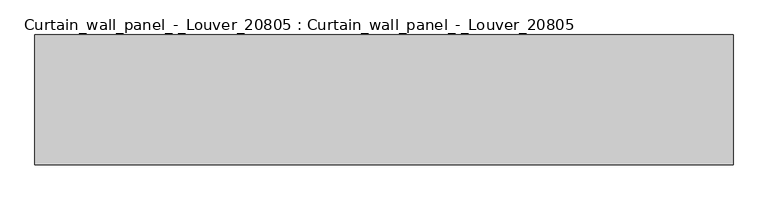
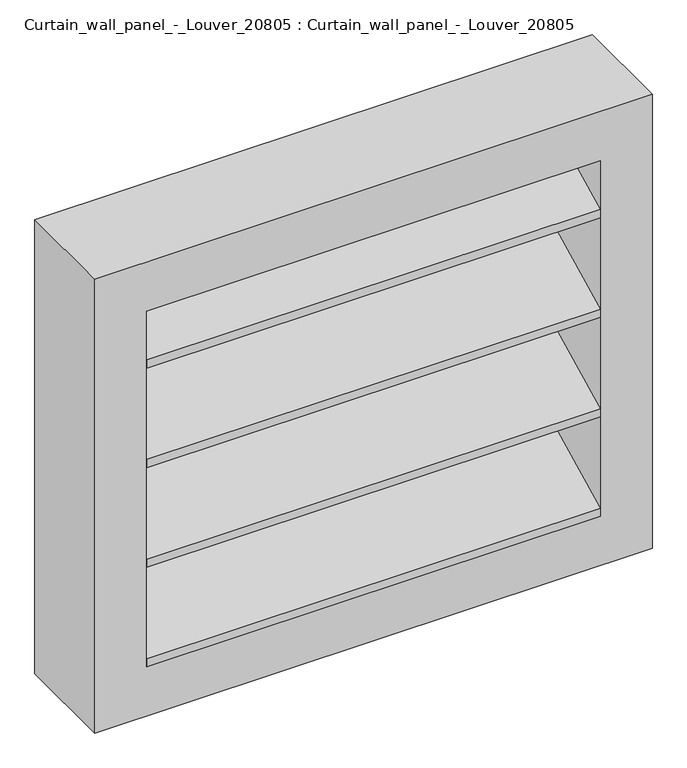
"""IFC4 building model written with IfcOpenShell, lengths in millimetres: plate geometry, Curtain_wall_panel_-_Louver_20805 : Curtain_wall_panel_-_Louver_20805."""

from ifc_helpers import new_model, si_unit, frame, origin, place, context, project, spatial, polyline, outline, extrude, source, transform, mapped, element, save


def curtain_wall_panel_louver_20805_curtain_wall_panel_louver_e74f52fb(model_context):
    return source(origin(), model_context, "Body", "SweptSolid", [
        extrude(outline(polyline([(200.0, 605.2950441), (0.0, 505.910046), (0.0, 522.6599789), (200.0, 622.044977), (200.0, 605.2950441)])), frame((-437.5000001, 0.0, 0.0), z_axis=(1.0, 0.0, 0.0), x_axis=(0.0, 1.0, 0.0)), (0.0, 0.0, 1.0), 875.0000001),
        extrude(outline(polyline([(200.0, 402.3400211), (0.0, 302.955023), (0.0, 319.7049559), (200.0, 419.089954), (200.0, 402.3400211)])), frame((-437.5000001, 0.0, 0.0), z_axis=(1.0, 0.0, 0.0), x_axis=(0.0, 1.0, 0.0)), (0.0, 0.0, 1.0), 875.0000001),
        extrude(outline(polyline([(200.0, 808.2500672), (0.0, 708.8650691), (0.0, 725.6150019), (200.0, 825.0), (200.0, 808.2500672)])), frame((-437.5000001, 0.0, 0.0), z_axis=(1.0, 0.0, 0.0), x_axis=(0.0, 1.0, 0.0)), (0.0, 0.0, 1.0), 875.0000001),
        extrude(outline(polyline([(200.0, 199.3849981), (0.0, 100.0), (0.0, 116.7499328), (200.0, 216.1349309), (200.0, 199.3849981)])), frame((-437.5000001, 0.0, 0.0), z_axis=(1.0, 0.0, 0.0), x_axis=(0.0, 1.0, 0.0)), (0.0, 0.0, 1.0), 875.0000001),
        extrude(outline(polyline([(925.0, -537.5000001), (0.0, -537.5000001), (0.0, 537.5000001), (925.0, 537.5000001), (925.0, -537.5000001)]), holes=[polyline([(825.0, -437.5000001), (825.0, 437.5000001), (100.0, 437.5000001), (100.0, -437.5000001), (825.0, -437.5000001)])]), frame((0.0, 0.0, 0.0), z_axis=(0.0, 1.0, 0.0), x_axis=(0.0, 0.0, 1.0)), (0.0, 0.0, 1.0), 200.0),
    ])


if __name__ == "__main__":
    model = new_model("IFC4")
    model_context = context("Model", 3, world=origin())
    ifc_project = project(units=[si_unit("LENGTHUNIT", "METRE", prefix="MILLI")], contexts=[model_context])
    site = spatial("IfcSite", under=ifc_project)
    building = spatial("IfcBuilding", under=site)
    placement = place(None, origin())
    curtain_wall_panel_louver_20805_curtain_wall_panel_louver_shape = curtain_wall_panel_louver_20805_curtain_wall_panel_louver_e74f52fb(model_context)
    element("IfcPlate", 1, ObjectType="Curtain_wall_panel_-_Louver_20805 : Curtain_wall_panel_-_Louver_20805", at=placement, inside=building, context=model_context, shape_type="MappedRepresentation", body=[
        mapped(curtain_wall_panel_louver_20805_curtain_wall_panel_louver_shape, transform((0.0, 0.0, 0.0), x_axis=(1.0, 0.0, 0.0), y_axis=(0.0, 1.0, 0.0), z_axis=(0.0, 0.0, 1.0))),
    ])
    save(model, "model.ifc")
